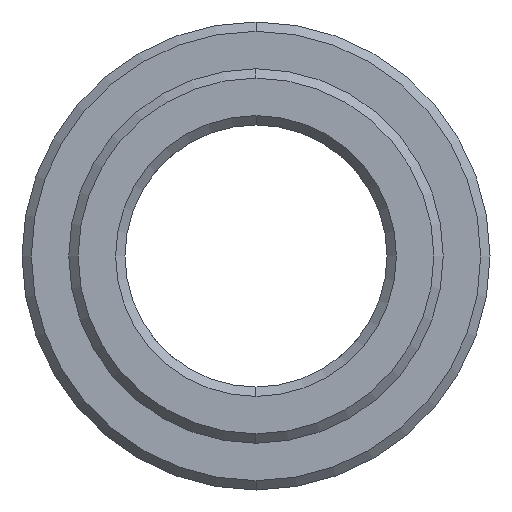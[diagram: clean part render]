
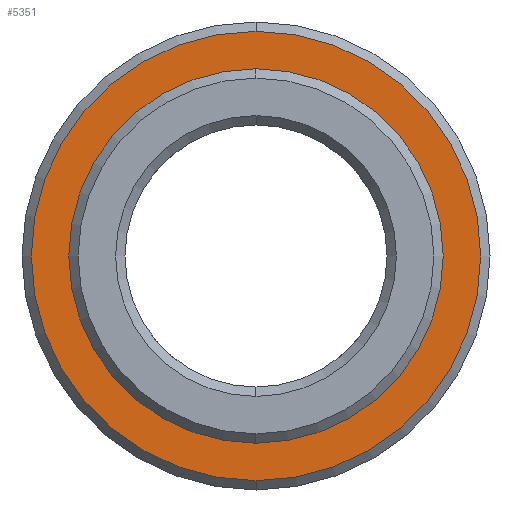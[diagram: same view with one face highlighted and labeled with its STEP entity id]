
A CAD part, left-side view. The second image highlights one B-rep face of the part: STEP entity #5351.
In plain terms, the highlighted planar face has unit normal (-1, 0, 0).
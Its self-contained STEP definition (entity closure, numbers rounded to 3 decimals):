
#3248=CARTESIAN_POINT('',(0.,0.,0.));
#3249=DIRECTION('',(1.,0.,0.));
#3250=DIRECTION('',(0.,0.,1.));
#3251=AXIS2_PLACEMENT_3D('',#3248,#3249,#3250);
#3253=CARTESIAN_POINT('',(0.,0.,0.));
#3254=DIRECTION('',(-1.,0.,0.));
#3255=DIRECTION('',(0.,0.,1.));
#3256=AXIS2_PLACEMENT_3D('',#3253,#3254,#3255);
#3258=CARTESIAN_POINT('',(0.,0.,0.));
#3259=DIRECTION('',(1.,0.,0.));
#3260=DIRECTION('',(0.,0.,-1.));
#3261=AXIS2_PLACEMENT_3D('',#3258,#3259,#3260);
#3263=CARTESIAN_POINT('',(0.,0.,
0.));
#3264=DIRECTION('',(1.,0.,0.));
#3265=DIRECTION('',(0.,0.,1.));
#3266=AXIS2_PLACEMENT_3D('',#3263,#3264,#3265);
#3502=CARTESIAN_POINT('',(0.,0.,-12.));
#3503=CARTESIAN_POINT('',(0.,0.,12.));
#3504=VERTEX_POINT('',#3502);
#3505=VERTEX_POINT('',#3503);
#3576=CARTESIAN_POINT('',(0.,0.,10.));
#3577=CARTESIAN_POINT('',(0.,0.,-10.));
#3578=VERTEX_POINT('',#3576);
#3579=VERTEX_POINT('',#3577);
#5336=CARTESIAN_POINT('',(0.,0.,0.));
#5337=DIRECTION('',(1.,0.,0.));
#5338=DIRECTION('',(0.,0.,1.));
#5339=AXIS2_PLACEMENT_3D('',#5336,#5337,#5338);
#5340=PLANE('',#5339);
#5341=ORIENTED_EDGE('',*,*,#5316,.T.);
#5342=ORIENTED_EDGE('',*,*,#5330,.T.);
#5343=EDGE_LOOP('',(#5341,#5342));
#5344=FACE_OUTER_BOUND('',#5343,.F.);
#5346=ORIENTED_EDGE('',*,*,#5345,.F.);
#5348=ORIENTED_EDGE('',*,*,#5347,.T.);
#5349=EDGE_LOOP('',(#5346,#5348));
#5350=FACE_BOUND('',#5349,.F.);
#5351=ADVANCED_FACE('',(#5344,#5350),#5340,.F.);
#3252=CIRCLE('',#3251,10.);
#3257=CIRCLE('',#3256,10.);
#3262=CIRCLE('',#3261,12.);
#3267=CIRCLE('',#3266,12.);
#5316=EDGE_CURVE('',#3504,#3505,#3262,.T.);
#5330=EDGE_CURVE('',#3505,#3504,#3267,.T.);
#5345=EDGE_CURVE('',#3578,#3579,#3252,.T.);
#5347=EDGE_CURVE('',#3578,#3579,#3257,.T.);
